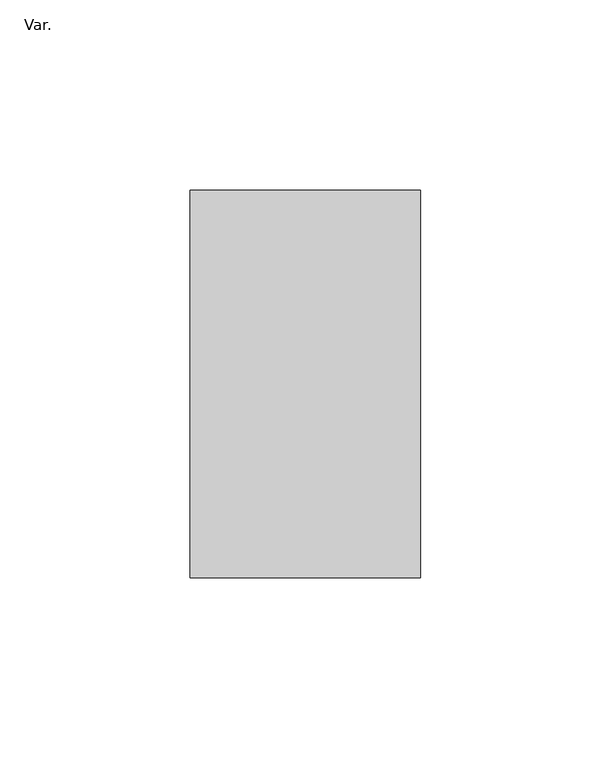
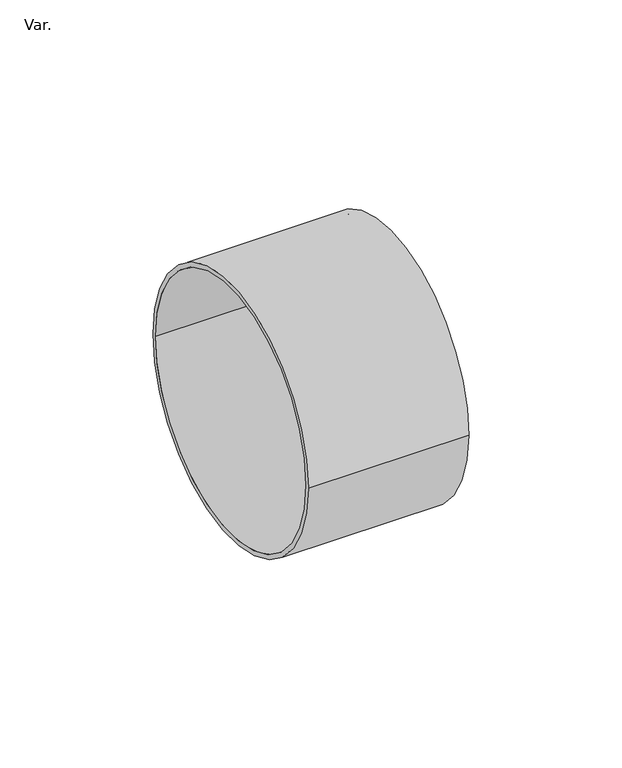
"""IFC4 building model written with IfcOpenShell, lengths in millimetres: pipe fitting geometry, AmancoWavin_ConexõesdeTubos_EsgotoZNãoUsarEsgotoCaixaSifProlongamento : Var.."""

from ifc_helpers import new_model, si_unit, point, frame, origin, origin_2d, place, context, project, spatial, circle_curve, trimmed, segment, composite_curve, outline, extrude, source, transform, mapped, element, save


def var_b5652f76(model_context):
    return source(origin(), model_context, "Body", "SweptSolid", [
        extrude(outline(composite_curve([segment(trimmed(circle_curve(origin_2d(), 50.8), [point((-50.8, 0.0))], [point((50.8, 0.0))], False, "CARTESIAN"), True, "CONTINUOUS"), segment(trimmed(circle_curve(origin_2d(), 50.8), [point((50.8, 0.0))], [point((-50.8, 0.0))], False, "CARTESIAN"), True, "CONTINUOUS")], self_intersect=False), holes=[composite_curve([segment(trimmed(circle_curve(origin_2d(), 49.0), [point((-49.0, 0.0))], [point((49.0, 0.0))], True, "CARTESIAN"), True, "CONTINUOUS"), segment(trimmed(circle_curve(origin_2d(), 49.0), [point((49.0, 0.0))], [point((-49.0, 0.0))], True, "CARTESIAN"), True, "CONTINUOUS")], self_intersect=False)]), frame((0.0, 0.0, 0.0), z_axis=(1.0, 0.0, 0.0), x_axis=(0.0, 1.0, 0.0)), (0.0, 0.0, 1.0), 60.5),
    ])


if __name__ == "__main__":
    model = new_model("IFC4")
    model_context = context("Model", 3, world=origin())
    ifc_project = project(units=[si_unit("LENGTHUNIT", "METRE", prefix="MILLI")], contexts=[model_context])
    site = spatial("IfcSite", under=ifc_project)
    building = spatial("IfcBuilding", under=site)
    placement = place(None, origin())
    var_shape = var_b5652f76(model_context)
    element("IfcPipeFitting", 1, ObjectType="AmancoWavin_ConexõesdeTubos_EsgotoZNãoUsarEsgotoCaixaSifProlongamento : Var.", at=placement, inside=building, context=model_context, shape_type="MappedRepresentation", body=[
        mapped(var_shape, transform((0.0, 0.0, 0.0), x_axis=(1.0, 0.0, 0.0), y_axis=(0.0, 1.0, 0.0), z_axis=(0.0, 0.0, 1.0))),
    ])
    save(model, "model.ifc")
